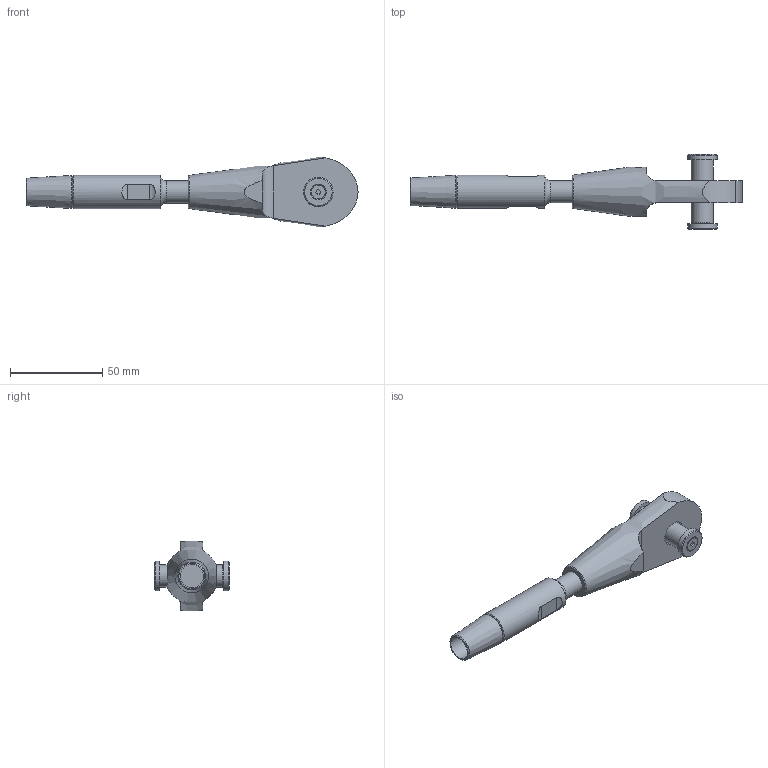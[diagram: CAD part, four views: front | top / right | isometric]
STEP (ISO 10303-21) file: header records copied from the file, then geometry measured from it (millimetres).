
FILE_DESCRIPTION(/* description */ (''),/* implementation_level */ '2;1');
FILE_NAME(/* name */ 'C:\Vault_WS\Designs\SB\01-PX\Verzinkt\ZSS\520 - Zusambau-OES-ADA\520-012-OES-ADA.stp',/* time_stamp */ '2020-10-07T15:32:21+02:00',/* author */ ('schwarz'),/* organization */ (''),/* preprocessor_version */ 'ST-DEVELOPER v18.1',/* originating_system */ 'Autodesk Inventor 2020',/* authorisation */ '');
FILE_SCHEMA (('AUTOMOTIVE_DESIGN { 1 0 10303 214 3 1 1 }'));
Length unit declared in the file: millimetre
Products named in the file (1): 520-012-OES-ADA-Kunde
Bounding box: 180 x 40.78 x 37.82 mm (x, y, z)
Volume: 60827.5 mm3; surface area: 18152.4 mm2
Topology: 6 solids, 6 shells, 62 faces, 151 edges, 105 vertices
Faces by surface type: plane 27, cylinder 20, cone 13, torus 2
Full cylindrical faces by diameter (mm): 3.242 x1, 4 x1, 4.5 x1, 7.53 x1, 12 x2, 12.6 x1, 13.5 x1, 16 x2, 18 x1
Entity records: 2128 total; most frequent: CARTESIAN_POINT 521, DIRECTION 312, ORIENTED_EDGE 298, EDGE_CURVE 149, AXIS2_PLACEMENT_3D 130, VERTEX_POINT 105, EDGE_LOOP 72, STYLED_ITEM 68
